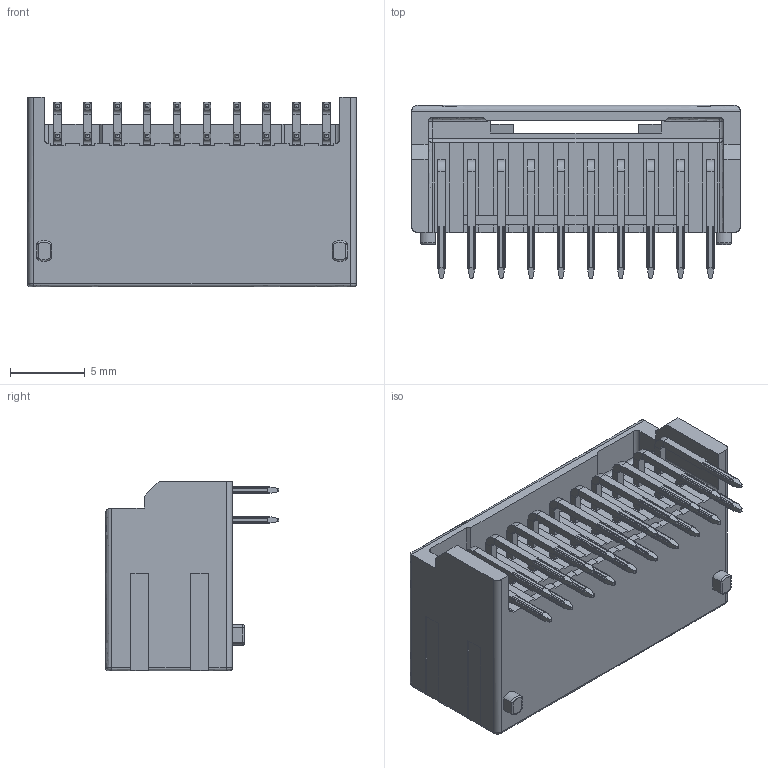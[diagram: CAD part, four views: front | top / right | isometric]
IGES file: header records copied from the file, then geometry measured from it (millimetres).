
Start section: ZWSOFT
Global section: file name: WF2013-2WRXXXTX1.igs; native system: ZW3D; preprocessor: 1.0; author: ZW3D; organization: ZWSOFT; date: 240327.083355; units: millimetre
Bounding box: 22 x 11.6 x 12.7 mm (x, y, z)
Surface area: 2010.7 mm2 (no closed solid volume)
Topology: 0 solids, 0 shells, 1171 faces, 6152 edges, 6152 vertices
Faces by surface type: bspline 1171
